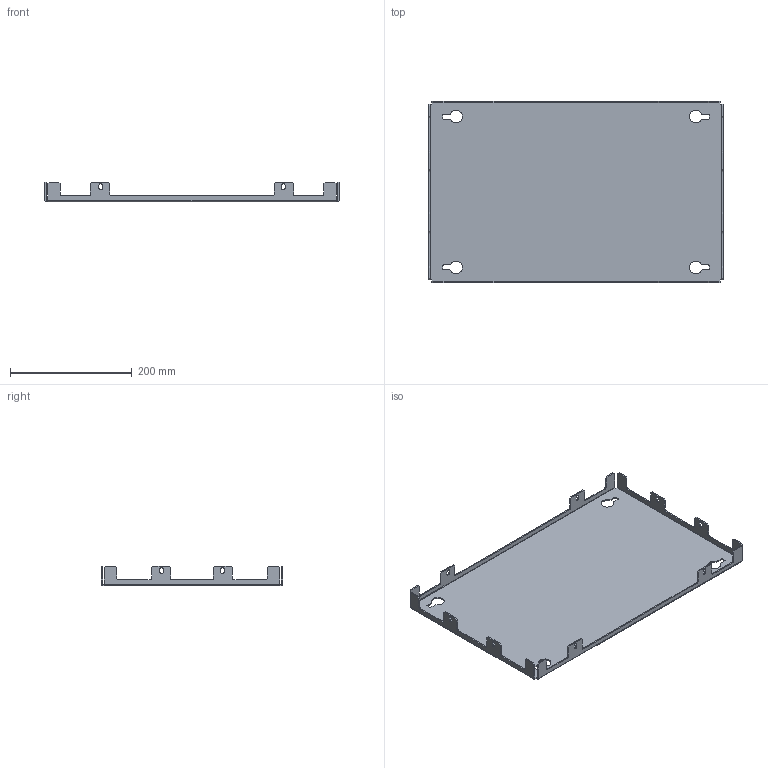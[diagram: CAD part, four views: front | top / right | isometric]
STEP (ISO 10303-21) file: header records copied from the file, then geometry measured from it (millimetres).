
FILE_DESCRIPTION (( 'STEP AP203' ), '1' );
FILE_NAME ('R5LPS0406.STEP', '2021-12-17T12:38:55', ( '' ), ( '' ), 'SwSTEP 2.0', 'SolidWorks 2020', '' );
FILE_SCHEMA (( 'CONFIG_CONTROL_DESIGN' ));
Length unit declared in the file: millimetre
Products named in the file (1): R5LPS0406
Bounding box: 484 x 298 x 32.5 mm (x, y, z)
Volume: 324814.2 mm3; surface area: 330517.2 mm2
Topology: 1 solids, 1 shells, 224 faces, 634 edges, 412 vertices
Faces by surface type: plane 146, cylinder 78
Entity records: 7343 total; most frequent: CARTESIAN_POINT 1271, ORIENTED_EDGE 1268, DIRECTION 1240, EDGE_CURVE 634, VECTOR 478, LINE 478, VERTEX_POINT 412, AXIS2_PLACEMENT_3D 381
